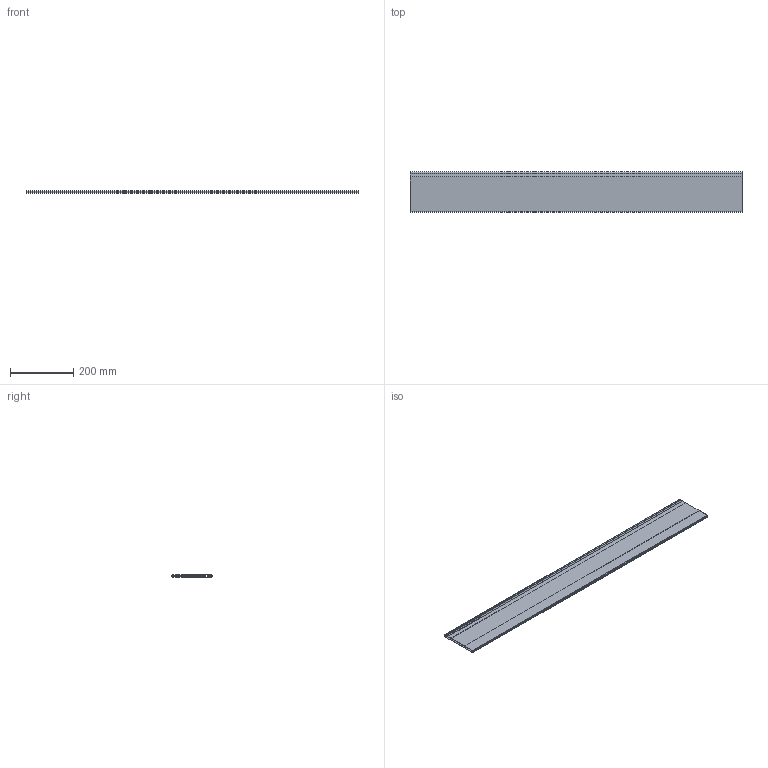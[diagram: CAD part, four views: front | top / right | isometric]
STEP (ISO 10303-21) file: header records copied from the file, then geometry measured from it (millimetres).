
FILE_DESCRIPTION (( 'STEP AP214' ), '1' );
FILE_NAME ('_Magic Optima Unterteilungsprofil DWD XP Agantis_Nova Pro KAB 1200.step', '2010-08-17T12:26:48', ( 'grass' ), ( '' ), 'SwSTEP 2.0', 'SolidWorks 2010', '' );
FILE_SCHEMA (( 'AUTOMOTIVE_DESIGN' ));
Length unit declared in the file: millimetre
Products named in the file (1): _Magic Optima Unterteilungsprofil DWD XP Agantis_Nova Pro  KAB 1200
Bounding box: 1050 x 127.7 x 8.1 mm (x, y, z)
Volume: 368049.6 mm3; surface area: 570009.6 mm2
Topology: 1 solids, 1 shells, 39 faces, 111 edges, 74 vertices
Faces by surface type: plane 22, cylinder 17
Entity records: 1325 total; most frequent: DIRECTION 225, CARTESIAN_POINT 225, ORIENTED_EDGE 222, EDGE_CURVE 111, VECTOR 77, LINE 77, VERTEX_POINT 74, AXIS2_PLACEMENT_3D 74
